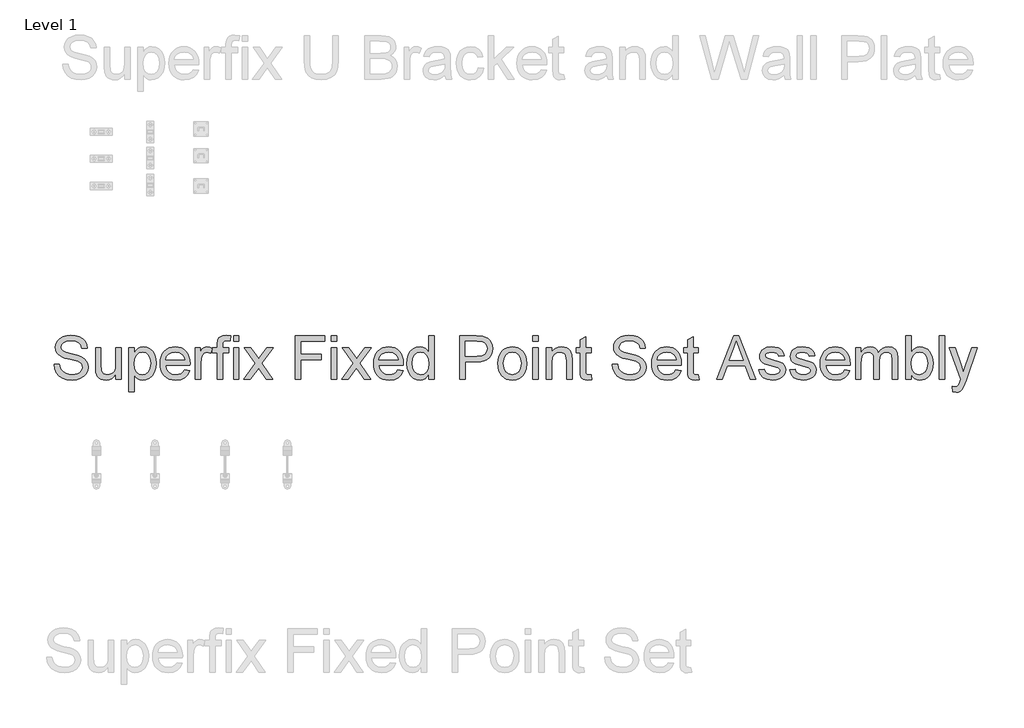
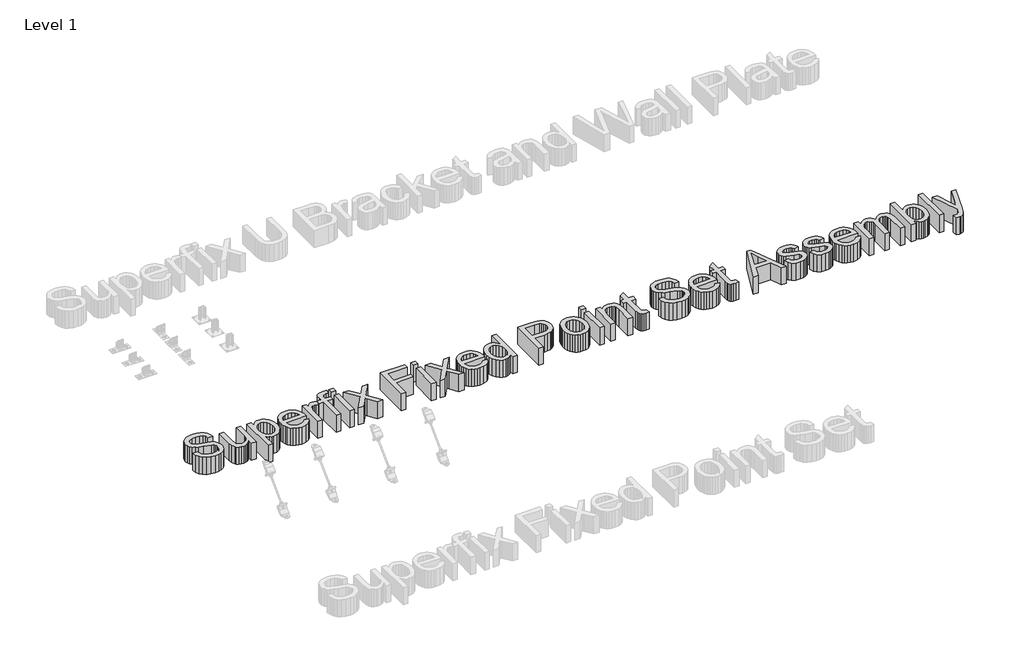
# One storey, part 22 of 32: 1 proxy.
"""IFC4 building model written with IfcOpenShell, lengths in millimetres."""

import ifcopenshell
import ifcopenshell.guid

model = None  # the IFC model being written
_history = None  # IfcOwnerHistory: only IFC2X3 demands one
_inside = {}  # id of a spatial element -> (the spatial element, [elements in it])
_under = {}  # id of a project, library or spatial element -> (it, [spatial elements below it])
_declared = {}  # id of a project -> (the project, [libraries it declares])
_typed = {}  # id of a type object -> (the type object, [elements of that type])
_made_of = {}  # id of a material, layer set ... -> (it, [elements and type objects made of it])


def new_model(schema):
    """Start an empty IFC model of exactly this schema.

    Asked for "IFC4X3", IfcOpenShell would pick the latest addendum, in which some entities
    have other attributes; the version numbers below select the first issue.
    IFC2X3 requires an IfcOwnerHistory on every rooted entity: one is made here for all.
    """
    global model, _history
    if schema == "IFC4X3":
        model = ifcopenshell.file(schema_version=(4, 3, 0, 0))
    else:
        model = ifcopenshell.file(schema=schema)
    _inside.clear()
    _under.clear()
    _declared.clear()
    _typed.clear()
    _made_of.clear()
    _history = None
    if model.schema == "IFC2X3":
        org = make("IfcOrganization", Name="unknown")
        user = make(
            "IfcPersonAndOrganization",
            ThePerson=make("IfcPerson", FamilyName="unknown"),
            TheOrganization=org,
        )
        app = make(
            "IfcApplication",
            ApplicationDeveloper=org,
            Version="unknown",
            ApplicationFullName="unknown",
            ApplicationIdentifier="unknown",
        )
        _history = make(
            "IfcOwnerHistory",
            OwningUser=user,
            OwningApplication=app,
            ChangeAction="ADDED",
            CreationDate=0,
        )
    return model


def make(cls, **values):
    """One entity of the class cls with the attributes given. An attribute that is None is left unset."""
    return model.create_entity(
        cls, **{name: value for name, value in values.items() if value is not None}
    )


def rooted(cls, **values):
    """An entity with a GlobalId (a new one), such as an element, a storey or a relation."""
    return make(cls, GlobalId=ifcopenshell.guid.new(), OwnerHistory=_history, **values)


def si_unit(unit_type, name, prefix=None):
    """IfcSIUnit, for example si_unit("LENGTHUNIT", "METRE", prefix="MILLI")."""
    return make("IfcSIUnit", UnitType=unit_type, Prefix=prefix, Name=name)


def assignment(units):
    """IfcUnitAssignment: the units of a project."""
    return None if units is None else make("IfcUnitAssignment", Units=units)


def point(xyz):
    """IfcCartesianPoint."""
    return None if xyz is None else make("IfcCartesianPoint", Coordinates=xyz)


def direction(xyz):
    """IfcDirection."""
    return None if xyz is None else make("IfcDirection", DirectionRatios=xyz)


def frame(location, z_axis=None, x_axis=None):
    """IfcAxis2Placement3D, a coordinate frame: its origin and axes. An axis left out is left unset."""
    return make(
        "IfcAxis2Placement3D",
        Location=point(location),
        Axis=direction(z_axis),
        RefDirection=direction(x_axis),
    )


def origin():
    """The frame at (0, 0, 0) with its axes left unset."""
    return frame((0.0, 0.0, 0.0))


def origin_with_axes():
    """The frame at (0, 0, 0) with the z axis (0, 0, 1) and the x axis (1, 0, 0) written out."""
    return frame((0.0, 0.0, 0.0), z_axis=(0.0, 0.0, 1.0), x_axis=(1.0, 0.0, 0.0))


def place(relative_to, where):
    """IfcLocalPlacement: puts the frame where relative to a parent placement (None: the world)."""
    return make(
        "IfcLocalPlacement", PlacementRelTo=relative_to, RelativePlacement=where
    )


def context(
    kind, dimensions, precision=None, world=None, true_north=None, identifier=None
):
    """IfcGeometricRepresentationContext, for example the 3D "Model" context."""
    return make(
        "IfcGeometricRepresentationContext",
        ContextIdentifier=identifier,
        ContextType=kind,
        CoordinateSpaceDimension=dimensions,
        Precision=precision,
        WorldCoordinateSystem=world,
        TrueNorth=true_north,
    )


def project(units=None, contexts=None):
    """IfcProject with its units and contexts."""
    return rooted(
        "IfcProject",
        Name="project",
        RepresentationContexts=contexts,
        UnitsInContext=assignment(units),
    )


def spatial(cls, under=None, at=None, **own):
    """A site, building, storey or space (cls), placed at a placement, below another one or the project."""
    s = rooted(cls, ObjectPlacement=at, **own)
    if under is not None:
        _under.setdefault(under.id(), (under, []))[1].append(s)
    return s


def polyline(points):
    """IfcPolyline through the points."""
    return make("IfcPolyline", Points=[point(p) for p in points])


def outline(outer, holes=None, kind="AREA"):
    """IfcArbitraryClosedProfileDef: a profile drawn as a closed curve; with holes, ...WithVoids."""
    if holes is None:
        return make("IfcArbitraryClosedProfileDef", ProfileType=kind, OuterCurve=outer)
    return make(
        "IfcArbitraryProfileDefWithVoids",
        ProfileType=kind,
        OuterCurve=outer,
        InnerCurves=holes,
    )


def extrude(swept, where, along, depth):
    """IfcExtrudedAreaSolid: the profile swept, set in the frame where, extruded along a direction by depth."""
    return make(
        "IfcExtrudedAreaSolid",
        SweptArea=swept,
        Position=where,
        ExtrudedDirection=direction(along),
        Depth=depth,
    )


def shape(context_of_items, identifier, shape_type, items):
    """IfcShapeRepresentation: the items that make up one representation, for example the "Body"."""
    return make(
        "IfcShapeRepresentation",
        ContextOfItems=context_of_items,
        RepresentationIdentifier=identifier,
        RepresentationType=shape_type,
        Items=items,
    )


def made_of(thing, what):
    """Note that an element or type object is made of a material, layer set ...; save() writes the relation."""
    if what is not None:
        _made_of.setdefault(what.id(), (what, []))[1].append(thing)
    return thing


def element(
    cls,
    number,
    at=None,
    inside=None,
    cuts=None,
    type_object=None,
    material=None,
    context=None,
    identifier="Body",
    shape_type=None,
    held_by="IfcProductDefinitionShape",
    body=None,
    shapes=None,
    **own,
):
    """One element of the class cls, such as IfcWall. Its Tag is "e" and its number.

    at: its placement. inside: the storey or other place that contains it. cuts: it is an
    opening in that element (IfcRelVoidsElement). A single representation is given by context,
    identifier, shape_type and body (its items); several are given by shapes. held_by: the class
    of the entity that holds the representations. save() writes the other relations.
    """
    e = rooted(cls, Tag="e%d" % number, ObjectPlacement=at, **own)
    if body is not None:
        shapes = [shape(context, identifier, shape_type, body)]
    if shapes is not None:
        e.Representation = make(held_by, Representations=shapes)
    if inside is not None:
        _inside.setdefault(inside.id(), (inside, []))[1].append(e)
    if cuts is not None:
        rooted(
            "IfcRelVoidsElement", RelatingBuildingElement=cuts, RelatedOpeningElement=e
        )
    if type_object is not None:
        _typed.setdefault(type_object.id(), (type_object, []))[1].append(e)
    return made_of(e, material)


def aggregate(whole, parts):
    """IfcRelAggregates: a whole, such as a stair, and the parts it consists of."""
    return rooted("IfcRelAggregates", RelatingObject=whole, RelatedObjects=parts)


def save(model, path):
    """Write the relations noted so far, then the file.

    IfcRelAggregates (storeys below a building ...), IfcRelContainedInSpatialStructure (elements
    in a storey), IfcRelDefinesByType, IfcRelAssociatesMaterial and IfcRelDeclares: one each for
    every whole, place, type object, material and project.
    """
    for whole, parts in _under.values():
        aggregate(whole, parts)
    for where, things in _inside.values():
        rooted(
            "IfcRelContainedInSpatialStructure",
            RelatedElements=things,
            RelatingStructure=where,
        )
    for kind, things in _typed.values():
        rooted("IfcRelDefinesByType", RelatedObjects=things, RelatingType=kind)
    for what, things in _made_of.values():
        rooted("IfcRelAssociatesMaterial", RelatedObjects=things, RelatingMaterial=what)
    for by, libraries in _declared.values():
        rooted("IfcRelDeclares", RelatingContext=by, RelatedDefinitions=libraries)
    model.write(path)


model = new_model("IFC4")

# Units and contexts
model_context = context("Model", 3, world=origin())
ifc_project = project(units=[si_unit("LENGTHUNIT", "METRE", prefix="MILLI")], contexts=[model_context])

# Site, building, storey
site = spatial("IfcSite", under=ifc_project)
building = spatial("IfcBuilding", under=site)
storey = spatial("IfcBuildingStorey", under=building, Name="Level 1", Elevation=0.0)

# Proxy
placement = place(None, origin())
element("IfcBuildingElementProxy", 1, Name="300mm Arial 2", ObjectType="300mm Arial 2", at=placement, inside=storey, context=model_context, shape_type="SweptSolid", body=[
    extrude(outline(polyline([(-40492.5355158, 18609.6031855), (-40454.8643995, 18609.6031855), (-40450.5417861, 18588.6982911), (-40442.7242937, 18571.895281), (-40430.5290055, 18558.5595587), (-40413.0730049, 18548.0565277), (-40391.7358492, 18541.2415138), (-40367.8970959, 18538.9698424), (-40346.909428, 18540.6896908), (-40328.5337224, 18545.8492357), (-40313.6436986, 18554.016216), (-40303.1130765, 18564.7583703), (-40296.8498855, 18577.0916142), (-40294.7621552, 18590.0318634), (-40296.3256537, 18602.6410187), (-40301.0161491, 18613.5395229), (-40310.5442928, 18622.8377403), (-40326.620736, 18630.6460356), (-40381.4719415, 18645.0302216), (-40417.4783918, 18654.5491683), (-40440.5170017, 18663.6082624), (-40459.2697864, 18676.2817971), (-40472.5595235, 18691.6408704), (-40480.4781834, 18709.3543885), (-40483.1177368, 18729.0912575), (-40479.852784, 18751.1549802), (-40470.0579259, 18771.7287808), (-40453.9906798, 18789.1663874), (-40431.908563, 18801.821528), (-40405.4026653, 18809.5194587), (-40376.0640762, 18812.0854357), (-40344.2790718, 18809.3998971), (-40316.4671929, 18801.3432814), (-40293.621721, 18788.0811355), (-40276.7359375, 18769.7790062), (-40266.0489655, 18747.5773278), (-40261.7999285, 18722.6165344), (-40299.4710448, 18722.6165344), (-40306.3872263, 18745.0941243), (-40320.8082005, 18761.3177203), (-40343.3409727, 18771.1401696), (-40374.5925482, 18774.4143193), (-40406.5798877, 18771.1769578), (-40428.5240487, 18761.4648731), (-40441.2159775, 18747.1726576), (-40445.4466204, 18730.1949035), (-40442.4483822, 18715.718747), (-40433.4536674, 18704.0752819), (-40412.1900881, 18693.6642214), (-40371.9437978, 18683.0324317), (-40330.4099206, 18672.934071), (-40305.2835803, 18664.1232972), (-40283.8084688, 18650.4564811), (-40268.8264746, 18633.5890916), (-40260.0248978, 18613.7050698), (-40257.0910389, 18590.9883565), (-40260.4663562, 18567.7658056), (-40270.5923081, 18545.9228121), (-40287.0550274, 18527.1240422), (-40309.4406468, 18513.0341618), (-40336.3604118, 18504.232585), (-40366.4255679, 18501.2987261), (-40403.333329, 18504.4625113), (-40433.7111848, 18513.9538668), (-40457.908623, 18529.8095808), (-40476.2751316, 18552.0664415), (-40488.0657496, 18579.1793445), (-40492.5355158, 18609.6031855)])), origin_with_axes(), (0.0, 0.0, 1.0), 150.0),
    extrude(outline(polyline([(-40064.0265678, 18506.0076157), (-40064.0265678, 18544.046614), (-40077.6565958, 18525.344413), (-40093.5307039, 18511.9856981), (-40111.6488921, 18503.9704691), (-40132.0111606, 18501.2987261), (-40150.3592751, 18503.1749243), (-40167.4381967, 18508.8035188), (-40181.7672004, 18517.2648047), (-40191.8655612, 18527.639077), (-40203.085962, 18555.3773794), (-40205.293254, 18590.3997454), (-40205.293254, 18727.325424), (-40167.6221377, 18727.325424), (-40167.6221377, 18608.1316575), (-40165.3412693, 18569.7247772), (-40159.8506305, 18556.9132867), (-40150.4420485, 18547.1736109), (-40137.7409226, 18541.0207846), (-40122.3726523, 18538.9698424), (-40106.1214651, 18541.0667698), (-40090.9187417, 18547.3575519), (-40078.3831627, 18557.2627746), (-40070.133409, 18570.2030238), (-40065.5532781, 18587.9257389), (-40064.0265678, 18612.1783595), (-40064.0265678, 18727.325424), (-40026.3554515, 18727.325424), (-40026.3554515, 18506.0076157), (-40064.0265678, 18506.0076157)])), origin_with_axes(), (0.0, 0.0, 1.0), 150.0),
    extrude(outline(polyline([(-39974.5576666, 18421.247604), (-39974.5576666, 18727.325424), (-39936.8865503, 18727.325424), (-39936.8865503, 18690.3900716), (-39924.5992917, 18708.6094275), (-39910.8405051, 18721.623253), (-39894.8008501, 18729.4315484), (-39875.6709863, 18732.0343135), (-39850.1951582, 18728.3922817), (-39827.9199033, 18717.4661865), (-39809.783321, 18699.9182153), (-39796.7235102, 18676.4105558), (-39788.8324414, 18648.6538593), (-39786.2020851, 18618.358777), (-39789.1727322, 18586.1415113), (-39798.0846735, 18557.327154), (-39812.6528005, 18533.3780361), (-39832.5920047, 18515.7564885), (-39855.8145556, 18504.9131667), (-39880.2327231, 18501.2987261), (-39897.550768, 18503.7175502), (-39913.0110088, 18510.9740226), (-39926.2455636, 18521.927709), (-39936.8865503, 18535.4381753), (-39936.8865503, 18421.247604), (-39974.5576666, 18421.247604)]), holes=[polyline([(-39936.8865503, 18614.9006862), (-39932.8122572, 18581.1291191), (-39920.5893779, 18557.511095), (-39902.5539631, 18543.6051556), (-39881.0420634, 18538.9698424), (-39859.1806759, 18543.7707025), (-39840.6854086, 18558.1732826), (-39828.0762532, 18582.6558294), (-39823.8732014, 18617.6965894), (-39827.9750856, 18651.2842156), (-39840.2807384, 18675.2333334), (-39858.288562, 18689.5807313), (-39879.4969591, 18694.3631972), (-39900.7881295, 18689.2772286), (-39919.4857319, 18674.0193229), (-39932.5363457, 18649.0677265), (-39936.8865503, 18614.9006862)])]), origin_with_axes(), (0.0, 0.0, 1.0), 150.0),
    extrude(outline(polyline([(-39588.8701829, 18571.9320692), (-39551.9348306, 18567.2231797), (-39565.2429617, 18539.3929067), (-39586.4789499, 18518.5891799), (-39615.1645485, 18505.6213396), (-39650.8215109, 18501.2987261), (-39674.1958131, 18503.163428), (-39695.0225326, 18508.7575336), (-39713.3016692, 18518.0810429), (-39729.033223, 18531.1339559), (-39741.6837651, 18547.5529892), (-39750.7198667, 18566.9748593), (-39756.1415276, 18589.3995662), (-39757.9487479, 18614.8271098), (-39756.1231335, 18641.1168769), (-39750.6462903, 18664.2888441), (-39741.5182183, 18684.3430114), (-39728.7389174, 18701.2793787), (-39713.0487503, 18714.7346627), (-39695.1880795, 18724.3455798), (-39675.1569048, 18730.1121301), (-39652.9552264, 18732.0343135), (-39631.4686187, 18730.1167286), (-39612.0375515, 18724.3639739), (-39594.662025, 18714.7760494), (-39579.3420392, 18701.3529551), (-39566.8363506, 18684.4533759), (-39557.9037159, 18664.4359969), (-39552.5441351, 18641.3008179), (-39550.7576082, 18615.047839), (-39550.9783374, 18604.894296), (-39720.2776316, 18604.894296), (-39713.7569232, 18576.696141), (-39698.609382, 18555.9659906), (-39676.7479945, 18543.2188795), (-39650.0857469, 18538.9698424), (-39630.0361781, 18540.9380111), (-39613.1503946, 18546.8425171), (-39599.4283961, 18557.0512425), (-39588.8701829, 18571.9320692)]), holes=[polyline([(-39720.2776316, 18642.5654123), (-39588.4287245, 18642.5654123), (-39593.5238901, 18662.4678282), (-39603.5118863, 18676.7048614), (-39625.4744414, 18689.9486133), (-39653.1023792, 18694.3631972), (-39678.495434, 18690.8407271), (-39699.4922988, 18680.2733168), (-39714.088017, 18663.8014004), (-39720.2776316, 18642.5654123)])]), origin_with_axes(), (0.0, 0.0, 1.0), 150.0),
    extrude(outline(polyline([(-39513.0864919, 18506.0076157), (-39513.0864919, 18727.325424), (-39480.1242651, 18727.325424), (-39480.1242651, 18694.5839264), (-39467.9473711, 18713.5666373), (-39456.7269702, 18724.75025), (-39445.4697812, 18730.2132976), (-39433.1825225, 18732.0343135), (-39414.4205408, 18729.1280457), (-39395.3642534, 18720.4092425), (-39407.9458176, 18686.6376753), (-39421.1895695, 18692.4318167), (-39434.4333213, 18694.3631972), (-39445.6813133, 18692.5053931), (-39455.7336888, 18686.9319809), (-39463.8546839, 18678.0660248), (-39469.3085344, 18666.3305892), (-39473.8886653, 18645.287739), (-39475.4153756, 18622.3319025), (-39475.4153756, 18506.0076157), (-39513.0864919, 18506.0076157)])), origin_with_axes(), (0.0, 0.0, 1.0), 150.0),
    extrude(outline(polyline([(-39362.4020266, 18506.0076157), (-39362.4020266, 18689.6543077), (-39395.3642534, 18689.6543077), (-39395.3642534, 18727.325424), (-39362.4020266, 18727.325424), (-39362.4020266, 18749.6190729), (-39358.4289011, 18781.0361953), (-39350.850532, 18793.5625772), (-39339.1518846, 18803.476997), (-39322.7811358, 18809.933326), (-39301.1864626, 18812.0854357), (-39266.8262843, 18807.9651573), (-39272.3445142, 18772.6484858), (-39294.0495519, 18774.4143193), (-39308.3693586, 18772.8508209), (-39317.7779406, 18768.1603254), (-39322.9926679, 18759.2023988), (-39324.7309103, 18744.8366069), (-39324.7309103, 18727.325424), (-39282.3509045, 18727.325424), (-39282.3509045, 18689.6543077), (-39324.7309103, 18689.6543077), (-39324.7309103, 18506.0076157), (-39362.4020266, 18506.0076157)])), origin_with_axes(), (0.0, 0.0, 1.0), 150.0),
    extrude(outline(polyline([(-39249.3886777, 18506.0076157), (-39249.3886777, 18727.325424), (-39211.7175614, 18727.325424), (-39211.7175614, 18506.0076157), (-39249.3886777, 18506.0076157)])), origin_with_axes(), (0.0, 0.0, 1.0), 150.0),
    extrude(outline(polyline([(-39249.3886777, 18769.7054298), (-39249.3886777, 18807.3765461), (-39211.7175614, 18807.3765461), (-39211.7175614, 18769.7054298), (-39249.3886777, 18769.7054298)])), origin_with_axes(), (0.0, 0.0, 1.0), 150.0),
    extrude(outline(polyline([(-39178.7553347, 18506.0076157), (-39098.2627541, 18617.255131), (-39174.0464451, 18727.325424), (-39128.7233833, 18727.325424), (-39092.155913, 18674.3504167), (-39075.0861884, 18649.334441), (-39060.2973322, 18669.7886799), (-39018.6530904, 18727.325424), (-38973.3300285, 18727.325424), (-39052.9396923, 18617.255131), (-38976.2730845, 18506.0076157), (-39021.5961463, 18506.0076157), (-39067.7285485, 18572.8885624), (-39076.1898344, 18585.1022446), (-39133.4322728, 18506.0076157), (-39178.7553347, 18506.0076157)])), origin_with_axes(), (0.0, 0.0, 1.0), 150.0),
    extrude(outline(polyline([(-38820.8797297, 18506.0076157), (-38820.8797297, 18807.3765461), (-38618.3974796, 18807.3765461), (-38618.3974796, 18769.7054298), (-38783.2086134, 18769.7054298), (-38783.2086134, 18680.2365286), (-38641.9419273, 18680.2365286), (-38641.9419273, 18642.5654123), (-38783.2086134, 18642.5654123), (-38783.2086134, 18506.0076157), (-38820.8797297, 18506.0076157)])), origin_with_axes(), (0.0, 0.0, 1.0), 150.0),
    extrude(outline(polyline([(-38571.3085842, 18769.7054298), (-38571.3085842, 18807.3765461), (-38533.6374679, 18807.3765461), (-38533.6374679, 18769.7054298), (-38571.3085842, 18769.7054298)])), origin_with_axes(), (0.0, 0.0, 1.0), 150.0),
    extrude(outline(polyline([(-38571.3085842, 18506.0076157), (-38571.3085842, 18727.325424), (-38533.6374679, 18727.325424), (-38533.6374679, 18506.0076157), (-38571.3085842, 18506.0076157)])), origin_with_axes(), (0.0, 0.0, 1.0), 150.0),
    extrude(outline(polyline([(-38500.6752411, 18506.0076157), (-38420.1826606, 18617.255131), (-38495.9663516, 18727.325424), (-38450.6432898, 18727.325424), (-38414.0758195, 18674.3504167), (-38397.0060949, 18649.334441), (-38382.2172387, 18669.7886799), (-38340.5729968, 18727.325424), (-38295.249935, 18727.325424), (-38374.8595988, 18617.255131), (-38298.192991, 18506.0076157), (-38343.5160528, 18506.0076157), (-38389.648455, 18572.8885624), (-38398.1097409, 18585.1022446), (-38455.3521793, 18506.0076157), (-38500.6752411, 18506.0076157)])), origin_with_axes(), (0.0, 0.0, 1.0), 150.0),
    extrude(outline(polyline([(-38110.2788679, 18571.9320692), (-38073.3435155, 18567.2231797), (-38086.6516467, 18539.3929067), (-38107.8876349, 18518.5891799), (-38136.5732335, 18505.6213396), (-38172.2301959, 18501.2987261), (-38195.6044981, 18503.163428), (-38216.4312176, 18508.7575336), (-38234.7103542, 18518.0810429), (-38250.441908, 18531.1339559), (-38263.0924501, 18547.5529892), (-38272.1285516, 18566.9748593), (-38277.5502125, 18589.3995662), (-38279.3574328, 18614.8271098), (-38277.5318184, 18641.1168769), (-38272.0549752, 18664.2888441), (-38262.9269032, 18684.3430114), (-38250.1476024, 18701.2793787), (-38234.4574353, 18714.7346627), (-38216.5967645, 18724.3455798), (-38196.5655898, 18730.1121301), (-38174.3639114, 18732.0343135), (-38152.8773036, 18730.1167286), (-38133.4462365, 18724.3639739), (-38116.07071, 18714.7760494), (-38100.7507242, 18701.3529551), (-38088.2450356, 18684.4533759), (-38079.3124009, 18664.4359969), (-38073.9528201, 18641.3008179), (-38072.1662932, 18615.047839), (-38072.3870224, 18604.894296), (-38241.6863165, 18604.894296), (-38235.1656082, 18576.696141), (-38220.018067, 18555.9659906), (-38198.1566795, 18543.2188795), (-38171.4944319, 18538.9698424), (-38151.4448631, 18540.9380111), (-38134.5590795, 18546.8425171), (-38120.8370811, 18557.0512425), (-38110.2788679, 18571.9320692)]), holes=[polyline([(-38241.6863165, 18642.5654123), (-38109.8374095, 18642.5654123), (-38114.9325751, 18662.4678282), (-38124.9205713, 18676.7048614), (-38146.8831264, 18689.9486133), (-38174.5110642, 18694.3631972), (-38199.9041189, 18690.8407271), (-38220.9009838, 18680.2733168), (-38235.496702, 18663.8014004), (-38241.6863165, 18642.5654123)])]), origin_with_axes(), (0.0, 0.0, 1.0), 150.0),
    extrude(outline(polyline([(-37897.9373802, 18506.0076157), (-37897.9373802, 18541.5450164), (-37909.2083649, 18523.9372644), (-37922.8613854, 18511.3602987), (-37938.8964419, 18503.8141193), (-37957.3135343, 18501.2987261), (-37981.6673223, 18504.9407579), (-38003.9609713, 18515.8668531), (-38022.8333176, 18533.3136568), (-38036.923198, 18556.5178136), (-38045.6971836, 18584.5412246), (-38048.6218455, 18616.4457906), (-38045.9271099, 18647.9548835), (-38037.842903, 18676.4105558), (-38024.378422, 18700.1941268), (-38005.5428638, 18717.6869157), (-37982.7617713, 18728.447464), (-37957.4606871, 18732.0343135), (-37939.0297991, 18729.4683366), (-37922.7326267, 18721.7704058), (-37908.9186578, 18709.9705908), (-37897.9373802, 18695.0989612), (-37897.9373802, 18807.3765461), (-37860.2662639, 18807.3765461), (-37860.2662639, 18506.0076157), (-37897.9373802, 18506.0076157)]), holes=[polyline([(-38010.9507292, 18616.5929434), (-38006.7016921, 18582.5178736), (-37993.954581, 18558.2836472), (-37975.4317225, 18543.7982936), (-37953.8554435, 18538.9698424), (-37932.2883615, 18543.5775644), (-37914.2345526, 18557.4007304), (-37902.0116733, 18580.6968577), (-37897.9373802, 18613.7234639), (-37902.0852497, 18649.8310817), (-37914.5288582, 18674.8654514), (-37933.0425196, 18689.4887608), (-37955.4005479, 18694.3631972), (-37977.1975561, 18689.6818988), (-37995.058227, 18675.6380036), (-38006.9776036, 18651.5141418), (-38010.9507292, 18616.5929434)])]), origin_with_axes(), (0.0, 0.0, 1.0), 150.0),
    extrude(outline(polyline([(-37681.3284615, 18506.0076157), (-37681.3284615, 18807.3765461), (-37569.6394878, 18807.3765461), (-37524.6107315, 18804.5070665), (-37504.5335717, 18799.1451865), (-37488.006473, 18790.4171861), (-37474.6983418, 18777.9275924), (-37464.2780843, 18761.2809321), (-37457.5458438, 18741.6452306), (-37455.3017636, 18720.1885133), (-37456.8169776, 18701.6886474), (-37461.3626195, 18684.6695066), (-37468.9386894, 18669.1310908), (-37479.5451871, 18655.0734001), (-37494.1064164, 18643.4207379), (-37513.5466805, 18635.0974078), (-37537.8659797, 18630.1034097), (-37567.0643138, 18628.4387437), (-37643.6573452, 18628.4387437), (-37643.6573452, 18506.0076157), (-37681.3284615, 18506.0076157)]), holes=[polyline([(-37643.6573452, 18666.10986), (-37564.8570218, 18666.10986), (-37531.4533367, 18669.5679507), (-37509.3804169, 18679.942223), (-37497.0747642, 18696.5888833), (-37492.97288, 18718.8641381), (-37495.3917041, 18735.7867099), (-37502.6481764, 18750.0605313), (-37513.8409861, 18760.8026855), (-37528.0688223, 18767.1302558), (-37565.7399386, 18769.7054298), (-37643.6573452, 18769.7054298), (-37643.6573452, 18666.10986)])]), origin_with_axes(), (0.0, 0.0, 1.0), 150.0),
    extrude(outline(polyline([(-37417.6306473, 18616.6665198), (-37415.5935008, 18645.3291258), (-37409.4820612, 18670.0278032), (-37399.2963284, 18690.7625522), (-37385.0363026, 18707.5333726), (-37370.6797077, 18718.2525343), (-37354.8331908, 18725.9090783), (-37337.4967517, 18730.5030047), (-37318.6703906, 18732.0343135), (-37297.8873572, 18730.1696116), (-37279.095485, 18724.575506), (-37262.2947741, 18715.2519967), (-37247.4852246, 18702.1990837), (-37235.3980018, 18685.8582253), (-37226.7642712, 18666.67088), (-37221.5840329, 18644.6370478), (-37219.8572867, 18619.7567286), (-37222.9107073, 18581.6993362), (-37232.070969, 18552.7286291), (-37247.0713573, 18531.0327884), (-37267.6451579, 18514.7999953), (-37292.0817194, 18504.6740434), (-37318.6703906, 18501.2987261), (-37339.7569268, 18503.1565302), (-37358.7235429, 18508.7299424), (-37375.570239, 18518.0189628), (-37390.2970151, 18531.0235913), (-37402.2554792, 18547.5230988), (-37410.7972393, 18567.2967561), (-37415.9222953, 18590.3445631), (-37417.6306473, 18616.6665198)]), holes=[polyline([(-37379.959531, 18616.7400962), (-37375.6001294, 18582.6466323), (-37362.5219245, 18558.3572236), (-37342.8402377, 18543.8166877), (-37318.6703906, 18538.9698424), (-37294.6109082, 18543.8442789), (-37274.9660096, 18558.4675882), (-37261.8878047, 18583.0788937), (-37257.528403, 18617.9173186), (-37261.9153958, 18651.0175011), (-37275.0763742, 18674.975816), (-37294.7488639, 18689.5163519), (-37318.6703906, 18694.3631972), (-37342.8402377, 18689.534746), (-37362.5219245, 18675.0493924), (-37375.6001294, 18650.815166), (-37379.959531, 18616.7400962)])]), origin_with_axes(), (0.0, 0.0, 1.0), 150.0),
    extrude(outline(polyline([(-37177.4772809, 18769.7054298), (-37177.4772809, 18807.3765461), (-37139.8061646, 18807.3765461), (-37139.8061646, 18769.7054298), (-37177.4772809, 18769.7054298)])), origin_with_axes(), (0.0, 0.0, 1.0), 150.0),
    extrude(outline(polyline([(-37177.4772809, 18506.0076157), (-37177.4772809, 18727.325424), (-37139.8061646, 18727.325424), (-37139.8061646, 18506.0076157), (-37177.4772809, 18506.0076157)])), origin_with_axes(), (0.0, 0.0, 1.0), 150.0),
    extrude(outline(polyline([(-37083.2994901, 18506.0076157), (-37083.2994901, 18727.325424), (-37045.6283738, 18727.325424), (-37045.6283738, 18696.4233364), (-37032.5409718, 18712.0031389), (-37016.8232136, 18723.1315692), (-36998.4750991, 18729.8086274), (-36977.4966283, 18732.0343135), (-36958.9277846, 18730.2408888), (-36941.9224394, 18724.8606146), (-36927.7405885, 18716.5648756), (-36917.6422277, 18706.0250564), (-36906.3482504, 18678.3235422), (-36904.3616877, 18641.9032247), (-36904.3616877, 18506.0076157), (-36942.032804, 18506.0076157), (-36942.032804, 18636.8264531), (-36946.3738115, 18670.1565619), (-36952.3794851, 18680.0801787), (-36961.7144907, 18687.7781095), (-36973.6798526, 18692.7169253), (-36987.576595, 18694.3631972), (-37009.6403176, 18690.6659831), (-37028.4482846, 18679.574341), (-37035.9645737, 18670.5198454), (-37041.3333515, 18658.1452148), (-37045.6283738, 18623.4355485), (-37045.6283738, 18506.0076157), (-37083.2994901, 18506.0076157)])), origin_with_axes(), (0.0, 0.0, 1.0), 150.0),
    extrude(outline(polyline([(-36772.5127806, 18537.4247381), (-36767.8038911, 18504.9039697), (-36795.9836519, 18501.2987261), (-36814.065052, 18502.8622246), (-36827.5479271, 18507.55272), (-36837.0760708, 18514.7816012), (-36843.2932765, 18523.960257), (-36846.714579, 18539.7240005), (-36847.8550132, 18566.7081449), (-36847.8550132, 18689.6543077), (-36876.1083504, 18689.6543077), (-36876.1083504, 18727.325424), (-36847.8550132, 18727.325424), (-36847.8550132, 18781.1097717), (-36810.1838969, 18803.2562678), (-36810.1838969, 18727.325424), (-36772.5127806, 18727.325424), (-36772.5127806, 18689.6543077), (-36810.1838969, 18689.6543077), (-36810.1838969, 18567.8117909), (-36808.1973341, 18548.3876215), (-36801.7593992, 18541.5082282), (-36788.9203176, 18538.9698424), (-36772.5127806, 18537.4247381)])), origin_with_axes(), (0.0, 0.0, 1.0), 150.0),
    extrude(outline(polyline([(-36626.5372049, 18609.6031855), (-36588.8660886, 18609.6031855), (-36584.5434752, 18588.6982911), (-36576.7259828, 18571.895281), (-36564.5306946, 18558.5595587), (-36547.074694, 18548.0565277), (-36525.7375382, 18541.2415138), (-36501.8987849, 18538.9698424), (-36480.9111171, 18540.6896908), (-36462.5354115, 18545.8492357), (-36447.6453877, 18554.016216), (-36437.1147656, 18564.7583703), (-36430.8515746, 18577.0916142), (-36428.7638443, 18590.0318634), (-36430.3273428, 18602.6410187), (-36435.0178382, 18613.5395229), (-36444.5459819, 18622.8377403), (-36460.6224251, 18630.6460356), (-36515.4736306, 18645.0302216), (-36551.4800808, 18654.5491683), (-36574.5186908, 18663.6082624), (-36593.2714755, 18676.2817971), (-36606.5612126, 18691.6408704), (-36614.4798725, 18709.3543885), (-36617.1194258, 18729.0912575), (-36613.8544731, 18751.1549802), (-36604.059615, 18771.7287808), (-36587.9923689, 18789.1663874), (-36565.9102521, 18801.821528), (-36539.4043544, 18809.5194587), (-36510.0657652, 18812.0854357), (-36478.2807609, 18809.3998971), (-36450.468882, 18801.3432814), (-36427.6234101, 18788.0811355), (-36410.7376265, 18769.7790062), (-36400.0506546, 18747.5773278), (-36395.8016175, 18722.6165344), (-36433.4727338, 18722.6165344), (-36440.3889154, 18745.0941243), (-36454.8098896, 18761.3177203), (-36477.3426618, 18771.1401696), (-36508.5942373, 18774.4143193), (-36540.5815767, 18771.1769578), (-36562.5257378, 18761.4648731), (-36575.2176666, 18747.1726576), (-36579.4483095, 18730.1949035), (-36576.4500713, 18715.718747), (-36567.4553565, 18704.0752819), (-36546.1917772, 18693.6642214), (-36505.9454869, 18683.0324317), (-36464.4116096, 18672.934071), (-36439.2852694, 18664.1232972), (-36417.8101579, 18650.4564811), (-36402.8281636, 18633.5890916), (-36394.0265869, 18613.7050698), (-36391.092728, 18590.9883565), (-36394.4680453, 18567.7658056), (-36404.5939972, 18545.9228121), (-36421.0567165, 18527.1240422), (-36443.4423359, 18513.0341618), (-36470.3621009, 18504.232585), (-36500.427257, 18501.2987261), (-36537.3350181, 18504.4625113), (-36567.7128739, 18513.9538668), (-36591.9103121, 18529.8095808), (-36610.2768207, 18552.0664415), (-36622.0674387, 18579.1793445), (-36626.5372049, 18609.6031855)])), origin_with_axes(), (0.0, 0.0, 1.0), 150.0),
    extrude(outline(polyline([(-36184.3430467, 18571.9320692), (-36147.4076944, 18567.2231797), (-36160.7158256, 18539.3929067), (-36181.9518137, 18518.5891799), (-36210.6374123, 18505.6213396), (-36246.2943747, 18501.2987261), (-36269.668677, 18503.163428), (-36290.4953964, 18508.7575336), (-36308.7745331, 18518.0810429), (-36324.5060869, 18531.1339559), (-36337.156629, 18547.5529892), (-36346.1927305, 18566.9748593), (-36351.6143914, 18589.3995662), (-36353.4216117, 18614.8271098), (-36351.5959973, 18641.1168769), (-36346.1191541, 18664.2888441), (-36336.9910821, 18684.3430114), (-36324.2117813, 18701.2793787), (-36308.5216142, 18714.7346627), (-36290.6609433, 18724.3455798), (-36270.6297687, 18730.1121301), (-36248.4280903, 18732.0343135), (-36226.9414825, 18730.1167286), (-36207.5104154, 18724.3639739), (-36190.1348889, 18714.7760494), (-36174.814903, 18701.3529551), (-36162.3092145, 18684.4533759), (-36153.3765798, 18664.4359969), (-36148.016999, 18641.3008179), (-36146.230472, 18615.047839), (-36146.4512012, 18604.894296), (-36315.7504954, 18604.894296), (-36309.229787, 18576.696141), (-36294.0822459, 18555.9659906), (-36272.2208583, 18543.2188795), (-36245.5586107, 18538.9698424), (-36225.509042, 18540.9380111), (-36208.6232584, 18546.8425171), (-36194.90126, 18557.0512425), (-36184.3430467, 18571.9320692)]), holes=[polyline([(-36315.7504954, 18642.5654123), (-36183.9015883, 18642.5654123), (-36188.996754, 18662.4678282), (-36198.9847501, 18676.7048614), (-36220.9473052, 18689.9486133), (-36248.5752431, 18694.3631972), (-36273.9682978, 18690.8407271), (-36294.9651627, 18680.2733168), (-36309.5608808, 18663.8014004), (-36315.7504954, 18642.5654123)])]), origin_with_axes(), (0.0, 0.0, 1.0), 150.0),
    extrude(outline(polyline([(-36028.5082336, 18537.4247381), (-36023.799344, 18504.9039697), (-36051.9791048, 18501.2987261), (-36070.0605049, 18502.8622246), (-36083.54338, 18507.55272), (-36093.0715237, 18514.7816012), (-36099.2887294, 18523.960257), (-36102.710032, 18539.7240005), (-36103.8504662, 18566.7081449), (-36103.8504662, 18689.6543077), (-36132.1038034, 18689.6543077), (-36132.1038034, 18727.325424), (-36103.8504662, 18727.325424), (-36103.8504662, 18781.1097717), (-36066.1793499, 18803.2562678), (-36066.1793499, 18727.325424), (-36028.5082336, 18727.325424), (-36028.5082336, 18689.6543077), (-36066.1793499, 18689.6543077), (-36066.1793499, 18567.8117909), (-36064.1927871, 18548.3876215), (-36057.7548522, 18541.5082282), (-36044.9157705, 18538.9698424), (-36028.5082336, 18537.4247381)])), origin_with_axes(), (0.0, 0.0, 1.0), 150.0),
    extrude(outline(polyline([(-35903.5019316, 18506.0076157), (-35783.2045192, 18807.3765461), (-35751.1252092, 18807.3765461), (-35630.8277968, 18506.0076157), (-35670.6326286, 18506.0076157), (-35705.1399598, 18600.1854064), (-35829.263345, 18600.1854064), (-35863.6970997, 18506.0076157), (-35903.5019316, 18506.0076157)]), holes=[polyline([(-35815.4309819, 18637.8565227), (-35718.8987464, 18637.8565227), (-35746.0484377, 18711.9479566), (-35767.1648642, 18769.7054298), (-35785.9268459, 18718.4226797), (-35815.4309819, 18637.8565227)])]), origin_with_axes(), (0.0, 0.0, 1.0), 150.0),
    extrude(outline(polyline([(-35609.4170647, 18571.9320692), (-35571.7459483, 18576.6409587), (-35565.8046541, 18560.5277273), (-35554.3083418, 18548.6819271), (-35537.1834349, 18541.3978636), (-35514.3563571, 18538.9698424), (-35491.8051908, 18541.1955285), (-35475.9494768, 18547.8725867), (-35466.5684859, 18557.5478832), (-35463.441489, 18568.768284), (-35466.58688, 18578.3700041), (-35476.0230532, 18585.6908558), (-35514.7978155, 18596.4330101), (-35571.5252191, 18614.863898), (-35585.881814, 18624.1253273), (-35596.2836774, 18636.3849948), (-35602.6020507, 18650.8611513), (-35604.7081751, 18666.7720476), (-35603.0159179, 18681.3677657), (-35597.9391464, 18694.8414438), (-35589.937713, 18706.6596529), (-35579.4714702, 18716.2889641), (-35555.5223524, 18727.4357886), (-35523.1119486, 18732.0343135), (-35498.5926136, 18730.1857065), (-35477.273852, 18724.6398854), (-35460.130551, 18715.9394762), (-35448.137598, 18704.6271049), (-35440.1913469, 18689.8658398), (-35435.1881517, 18670.8187495), (-35472.859268, 18666.10986), (-35477.6141428, 18677.9648573), (-35487.0227249, 18686.8951927), (-35501.1769846, 18692.4961961), (-35520.1688926, 18694.3631972), (-35541.8003539, 18692.5789695), (-35556.2213281, 18687.2262865), (-35564.3331261, 18679.5007646), (-35567.0370588, 18670.5980203), (-35562.5488985, 18659.6351368), (-35548.4958062, 18651.3210038), (-35516.0486143, 18643.3011763), (-35460.7559504, 18625.5692641), (-35446.1510352, 18617.0895841), (-35435.0777871, 18605.4829072), (-35428.0972263, 18590.7124451), (-35425.7703727, 18572.7414096), (-35428.5018965, 18554.1633688), (-35436.6964679, 18536.6889741), (-35450.0413873, 18521.6885857), (-35468.2239549, 18510.5325642), (-35490.18651, 18503.6071856), (-35514.8713919, 18501.2987261), (-35552.8552079, 18505.7500983), (-35580.5751162, 18519.1042147), (-35599.0795806, 18541.2139226), (-35609.4170647, 18571.9320692)])), origin_with_axes(), (0.0, 0.0, 1.0), 150.0),
    extrude(outline(polyline([(-35397.5170354, 18571.9320692), (-35359.8459191, 18576.6409587), (-35353.9046249, 18560.5277273), (-35342.4083126, 18548.6819271), (-35325.2834057, 18541.3978636), (-35302.4563279, 18538.9698424), (-35279.9051616, 18541.1955285), (-35264.0494476, 18547.8725867), (-35254.6684567, 18557.5478832), (-35251.5414597, 18568.768284), (-35254.6868508, 18578.3700041), (-35264.123024, 18585.6908558), (-35302.8977863, 18596.4330101), (-35359.6251899, 18614.863898), (-35373.9817848, 18624.1253273), (-35384.3836482, 18636.3849948), (-35390.7020215, 18650.8611513), (-35392.8081459, 18666.7720476), (-35391.1158887, 18681.3677657), (-35386.0391172, 18694.8414438), (-35378.0376838, 18706.6596529), (-35367.571441, 18716.2889641), (-35343.6223231, 18727.4357886), (-35311.2119194, 18732.0343135), (-35286.6925844, 18730.1857065), (-35265.3738228, 18724.6398854), (-35248.2305218, 18715.9394762), (-35236.2375687, 18704.6271049), (-35228.2913176, 18689.8658398), (-35223.2881225, 18670.8187495), (-35260.9592388, 18666.10986), (-35265.7141136, 18677.9648573), (-35275.1226956, 18686.8951927), (-35289.2769554, 18692.4961961), (-35308.2688634, 18694.3631972), (-35329.9003247, 18692.5789695), (-35344.3212989, 18687.2262865), (-35352.4330969, 18679.5007646), (-35355.1370296, 18670.5980203), (-35350.6488692, 18659.6351368), (-35336.595777, 18651.3210038), (-35304.1485851, 18643.3011763), (-35248.8559212, 18625.5692641), (-35234.251006, 18617.0895841), (-35223.1777579, 18605.4829072), (-35216.1971971, 18590.7124451), (-35213.8703434, 18572.7414096), (-35216.6018673, 18554.1633688), (-35224.7964387, 18536.6889741), (-35238.1413581, 18521.6885857), (-35256.3239257, 18510.5325642), (-35278.2864808, 18503.6071856), (-35302.9713627, 18501.2987261), (-35340.9551787, 18505.7500983), (-35368.675087, 18519.1042147), (-35387.1795514, 18541.2139226), (-35397.5170354, 18571.9320692)])), origin_with_axes(), (0.0, 0.0, 1.0), 150.0),
    extrude(outline(polyline([(-35016.5384412, 18571.9320692), (-34979.6030889, 18567.2231797), (-34992.9112201, 18539.3929067), (-35014.1472083, 18518.5891799), (-35042.8328068, 18505.6213396), (-35078.4897692, 18501.2987261), (-35101.8640715, 18503.163428), (-35122.6907909, 18508.7575336), (-35140.9699276, 18518.0810429), (-35156.7014814, 18531.1339559), (-35169.3520235, 18547.5529892), (-35178.388125, 18566.9748593), (-35183.8097859, 18589.3995662), (-35185.6170062, 18614.8271098), (-35183.7913918, 18641.1168769), (-35178.3145486, 18664.2888441), (-35169.1864766, 18684.3430114), (-35156.4071758, 18701.2793787), (-35140.7170087, 18714.7346627), (-35122.8563378, 18724.3455798), (-35102.8251632, 18730.1121301), (-35080.6234848, 18732.0343135), (-35059.136877, 18730.1167286), (-35039.7058099, 18724.3639739), (-35022.3302834, 18714.7760494), (-35007.0102975, 18701.3529551), (-34994.504609, 18684.4533759), (-34985.5719743, 18664.4359969), (-34980.2123935, 18641.3008179), (-34978.4258665, 18615.047839), (-34978.6465957, 18604.894296), (-35147.9458899, 18604.894296), (-35141.4251815, 18576.696141), (-35126.2776404, 18555.9659906), (-35104.4162528, 18543.2188795), (-35077.7540052, 18538.9698424), (-35057.7044365, 18540.9380111), (-35040.8186529, 18546.8425171), (-35027.0966545, 18557.0512425), (-35016.5384412, 18571.9320692)]), holes=[polyline([(-35147.9458899, 18642.5654123), (-35016.0969828, 18642.5654123), (-35021.1921485, 18662.4678282), (-35031.1801446, 18676.7048614), (-35053.1426997, 18689.9486133), (-35080.7706376, 18694.3631972), (-35106.1636923, 18690.8407271), (-35127.1605572, 18680.2733168), (-35141.7562753, 18663.8014004), (-35147.9458899, 18642.5654123)])]), origin_with_axes(), (0.0, 0.0, 1.0), 150.0),
    extrude(outline(polyline([(-34940.7547502, 18506.0076157), (-34940.7547502, 18727.325424), (-34903.0836339, 18727.325424), (-34903.0836339, 18690.9051064), (-34891.7528685, 18707.6345402), (-34877.1847415, 18720.7403362), (-34859.8758936, 18729.2108192), (-34840.3229655, 18732.0343135), (-34819.3720859, 18729.1556369), (-34802.5782728, 18720.5196071), (-34790.0334968, 18706.6964411), (-34781.8297283, 18688.2563561), (-34768.0985328, 18707.4092124), (-34752.4359569, 18721.0898241), (-34734.8420005, 18729.2981912), (-34715.3166636, 18732.0343135), (-34686.998947, 18727.4817738), (-34666.0572644, 18713.8241547), (-34653.1170152, 18690.6935743), (-34648.8035988, 18657.7221505), (-34648.8035988, 18506.0076157), (-34686.4747152, 18506.0076157), (-34686.4747152, 18641.5353427), (-34689.9695941, 18672.9892533), (-34694.8808187, 18681.6620713), (-34702.6247347, 18688.4770853), (-34712.5851398, 18692.8916692), (-34724.1458315, 18694.3631972), (-34744.5540851, 18690.5924067), (-34761.1915484, 18679.2800354), (-34772.2555994, 18659.6535309), (-34775.9436164, 18630.9403412), (-34775.9436164, 18506.0076157), (-34813.6147327, 18506.0076157), (-34813.6147327, 18645.7291974), (-34815.7944335, 18667.029565), (-34822.333536, 18682.2230914), (-34833.8390454, 18691.3281707), (-34850.917967, 18694.3631972), (-34865.4309117, 18692.3398462), (-34878.8034222, 18686.2697933), (-34889.8398821, 18676.3001912), (-34897.3446748, 18662.5781928), (-34901.6488941, 18643.5402996), (-34903.0836339, 18617.623013), (-34903.0836339, 18506.0076157), (-34940.7547502, 18506.0076157)])), origin_with_axes(), (0.0, 0.0, 1.0), 150.0),
    extrude(outline(polyline([(-34554.6258081, 18506.0076157), (-34592.2969244, 18506.0076157), (-34592.2969244, 18807.3765461), (-34554.6258081, 18807.3765461), (-34554.6258081, 18695.613996), (-34542.2373819, 18711.5478849), (-34528.248669, 18722.9292341), (-34512.6596695, 18729.7580437), (-34495.4703833, 18732.0343135), (-34476.064608, 18729.9833714), (-34457.7256906, 18723.830545), (-34441.5020946, 18713.9621105), (-34428.4422837, 18700.7643439), (-34418.2059672, 18684.366004), (-34410.4528542, 18664.8958494), (-34405.5692207, 18643.1632205), (-34403.9413429, 18619.9774578), (-34405.6267022, 18593.2232397), (-34410.6827804, 18569.687989), (-34419.1095774, 18549.3717058), (-34430.9070931, 18532.2743901), (-34445.0682507, 18518.7225371), (-34460.5859731, 18509.0426421), (-34477.4602603, 18503.2347051), (-34495.6911125, 18501.2987261), (-34513.4460172, 18503.7957252), (-34529.1867681, 18511.2867223), (-34542.9133651, 18523.7717175), (-34554.6258081, 18541.2507108), (-34554.6258081, 18506.0076157)]), holes=[polyline([(-34554.6258081, 18618.2116242), (-34552.0506341, 18586.7945018), (-34544.3251122, 18565.5309225), (-34535.1970402, 18553.91045), (-34524.5882432, 18545.6101124), (-34512.4987211, 18540.6299099), (-34498.928474, 18538.9698424), (-34477.1866481, 18543.862673), (-34458.6086073, 18558.5411646), (-34445.8614962, 18582.9133468), (-34441.6124592, 18616.887249), (-34445.6867523, 18651.357792), (-34457.9096315, 18675.4540626), (-34475.9082582, 18689.6359136), (-34497.3097932, 18694.3631972), (-34519.0516191, 18689.4703667), (-34537.6296599, 18674.7918751), (-34550.376771, 18650.8611513), (-34554.6258081, 18618.2116242)])]), origin_with_axes(), (0.0, 0.0, 1.0), 150.0),
    extrude(outline(polyline([(-34361.561337, 18506.0076157), (-34361.561337, 18807.3765461), (-34323.8902207, 18807.3765461), (-34323.8902207, 18506.0076157), (-34361.561337, 18506.0076157)])), origin_with_axes(), (0.0, 0.0, 1.0), 150.0),
    extrude(outline(polyline([(-34267.3835462, 18421.247604), (-34272.0924358, 18457.5207687), (-34252.962572, 18454.2098307), (-34235.0835071, 18458.3668973), (-34224.1206236, 18469.9551801), (-34213.8199277, 18497.6934826), (-34210.8768718, 18506.8169561), (-34290.9279939, 18727.325424), (-34251.1967385, 18727.325424), (-34208.7431562, 18604.4528376), (-34193.9543, 18555.303803), (-34179.1654438, 18598.7138784), (-34135.5346392, 18727.325424), (-34096.0976893, 18727.325424), (-34173.1321791, 18500.7101149), (-34193.1449596, 18451.5610804), (-34203.3904732, 18435.8709133), (-34214.9971501, 18425.0000003), (-34228.4800253, 18418.6540359), (-34244.3541333, 18416.5387144), (-34267.3835462, 18421.247604)])), origin_with_axes(), (0.0, 0.0, 1.0), 150.0),
])

save(model, "model.ifc")
